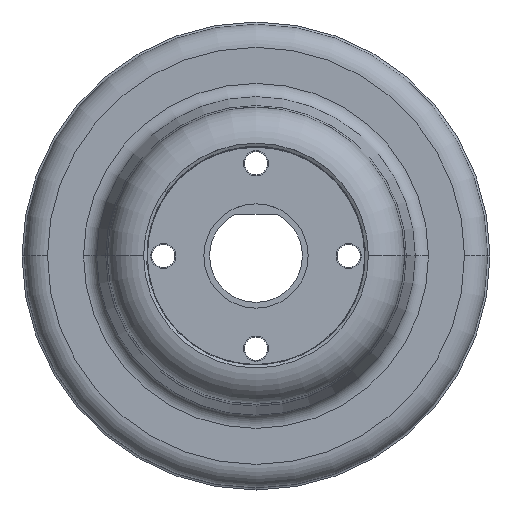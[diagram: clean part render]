
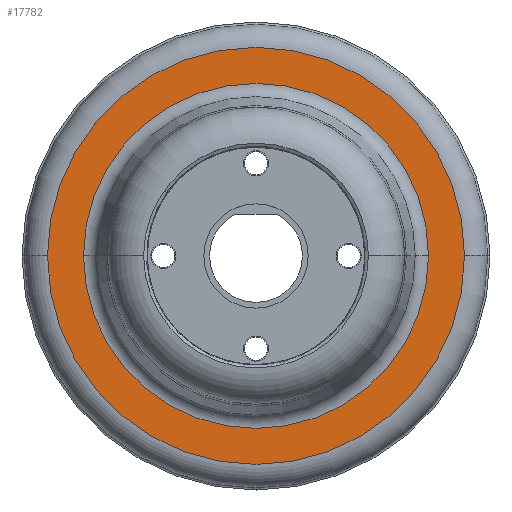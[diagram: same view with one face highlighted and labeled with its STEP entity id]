
A CAD part, top view. The second image highlights one B-rep face of the part: STEP entity #17782.
In plain terms, the highlighted planar face has unit normal (0, 0, 1).
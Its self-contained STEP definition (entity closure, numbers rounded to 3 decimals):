
#1056 = VERTEX_POINT ( 'NONE', #18159 ) ;
#1101 = VERTEX_POINT ( 'NONE', #2776 ) ;
#1181 = CARTESIAN_POINT ( 'NONE',  ( 0., 0., 11.5 ) ) ;
#1271 = DIRECTION ( 'NONE',  ( 1., 0., 0. ) ) ;
#2718 = FACE_OUTER_BOUND ( 'NONE', #9019, .T. ) ;
#2776 = CARTESIAN_POINT ( 'NONE',  ( 45., 0., 11.5 ) ) ;
#2839 = DIRECTION ( 'NONE',  ( 1., 0., 0. ) ) ;
#3150 = AXIS2_PLACEMENT_3D ( 'NONE', #18908, #12615, #1271 ) ;
#3906 = CARTESIAN_POINT ( 'NONE',  ( -37.232, 0., 11.5 ) ) ;
#4960 = EDGE_CURVE ( 'NONE', #10426, #19358, #19037, .T. ) ;
#5563 = DIRECTION ( 'NONE',  ( 0., 0., 1. ) ) ;
#5852 = AXIS2_PLACEMENT_3D ( 'NONE', #8891, #5563, #7016 ) ;
#6756 = AXIS2_PLACEMENT_3D ( 'NONE', #1181, #7324, #2839 ) ;
#7016 = DIRECTION ( 'NONE',  ( 1., 0., 0. ) ) ;
#7226 = ORIENTED_EDGE ( 'NONE', *, *, #14674, .T. ) ;
#7324 = DIRECTION ( 'NONE',  ( 0., 0., -1. ) ) ;
#7450 = EDGE_CURVE ( 'NONE', #19358, #10426, #12810, .T. ) ;
#8891 = CARTESIAN_POINT ( 'NONE',  ( 0., 0., 11.5 ) ) ;
#9019 = EDGE_LOOP ( 'NONE', ( #7226, #20639 ) ) ;
#9147 = EDGE_CURVE ( 'NONE', #1056, #1101, #17540, .T. ) ;
#9468 = DIRECTION ( 'NONE',  ( 1., 0., 0. ) ) ;
#10426 = VERTEX_POINT ( 'NONE', #3906 ) ;
#10542 = ORIENTED_EDGE ( 'NONE', *, *, #4960, .T. ) ;
#11128 = DIRECTION ( 'NONE',  ( 0., 0., -1. ) ) ;
#12510 = FACE_BOUND ( 'NONE', #13380, .T. ) ;
#12615 = DIRECTION ( 'NONE',  ( 0., 0., 1. ) ) ;
#12810 = CIRCLE ( 'NONE', #6756, 37.232 ) ;
#13061 = DIRECTION ( 'NONE',  ( 0., 0., 1. ) ) ;
#13380 = EDGE_LOOP ( 'NONE', ( #18442, #10542 ) ) ;
#14419 = CIRCLE ( 'NONE', #20103, 45. ) ;
#14674 = EDGE_CURVE ( 'NONE', #1101, #1056, #14419, .T. ) ;
#14697 = AXIS2_PLACEMENT_3D ( 'NONE', #17436, #11128, #9468 ) ;
#14982 = CARTESIAN_POINT ( 'NONE',  ( 0., 0., 11.5 ) ) ;
#15079 = DIRECTION ( 'NONE',  ( 1., 0., 0. ) ) ;
#15874 = PLANE ( 'NONE',  #3150 ) ;
#17436 = CARTESIAN_POINT ( 'NONE',  ( 0., 0., 11.5 ) ) ;
#17540 = CIRCLE ( 'NONE', #5852, 45. ) ;
#17782 = ADVANCED_FACE ( 'NONE', ( #2718, #12510 ), #15874, .T. ) ;
#18159 = CARTESIAN_POINT ( 'NONE',  ( -45., 0., 11.5 ) ) ;
#18442 = ORIENTED_EDGE ( 'NONE', *, *, #7450, .T. ) ;
#18888 = CARTESIAN_POINT ( 'NONE',  ( 37.232, 0., 11.5 ) ) ;
#18908 = CARTESIAN_POINT ( 'NONE',  ( 0., 0., 11.5 ) ) ;
#19037 = CIRCLE ( 'NONE', #14697, 37.232 ) ;
#19358 = VERTEX_POINT ( 'NONE', #18888 ) ;
#20103 = AXIS2_PLACEMENT_3D ( 'NONE', #14982, #13061, #15079 ) ;
#20639 = ORIENTED_EDGE ( 'NONE', *, *, #9147, .T. ) ;
